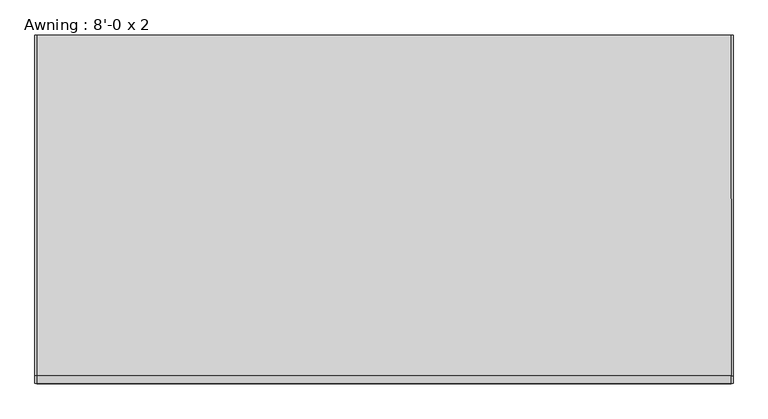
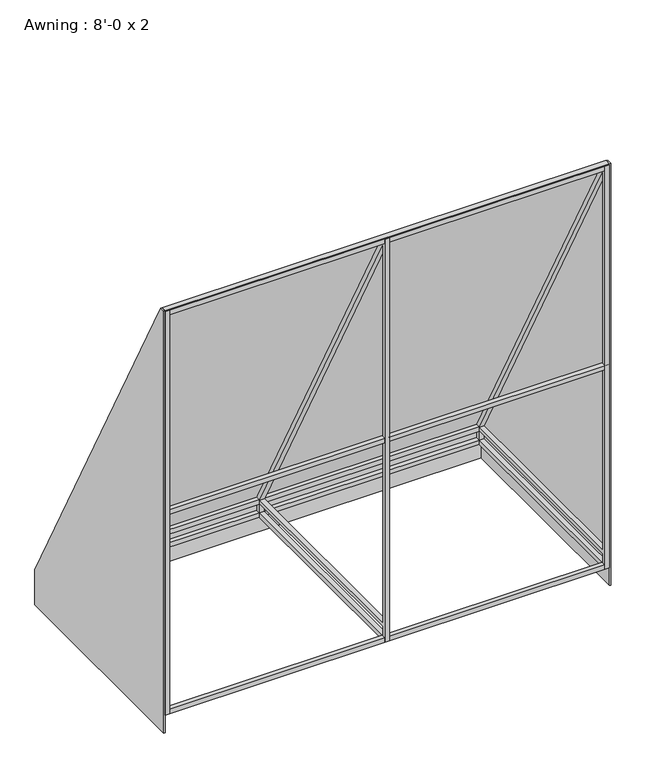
"""IFC4 building model written with IfcOpenShell, lengths in millimetres: proxy geometry, Awning : 8'-0 x 2."""

from ifc_helpers import new_model, si_unit, frame, origin, place, context, project, spatial, polyline, outline, extrude, source, transform, mapped, element, save


def awning_8_0_x_2_a0d9e4c4(model_context):
    return source(origin(), model_context, "Body", "SweptSolid", [
        extrude(outline(polyline([(1339.85, 2032.0), (1339.85, 1930.4), (120.65, 1930.4), (120.65, 4267.2), (146.05, 4267.2), (1339.85, 2032.0)]), holes=[polyline([(1314.45, 2006.6), (146.05, 2006.6), (146.05, 1955.8), (1314.45, 1955.8), (1314.45, 2006.6)]), polyline([(146.05, 2032.0), (1311.0542731, 2032.0), (146.05, 4213.2845964), (146.05, 2032.0)])]), frame((-12.7, 0.0, 0.0), z_axis=(1.0, 0.0, 0.0), x_axis=(0.0, 1.0, 0.0)), (0.0, 0.0, 1.0), 25.4),
        extrude(outline(polyline([(1339.85, 2032.0), (1339.85, 1930.4), (120.65, 1930.4), (120.65, 4267.2), (146.05, 4267.2), (1339.85, 2032.0)]), holes=[polyline([(1314.45, 2006.6), (146.05, 2006.6), (146.05, 1955.8), (1314.45, 1955.8), (1314.45, 2006.6)]), polyline([(146.05, 2032.0), (1311.0542731, 2032.0), (146.05, 4213.2845964), (146.05, 2032.0)])]), frame((1193.8, 0.0, 0.0), z_axis=(1.0, 0.0, 0.0), x_axis=(0.0, 1.0, 0.0)), (0.0, 0.0, 1.0), 25.4),
        extrude(outline(polyline([(1339.85, 2032.0), (1339.85, 1930.4), (120.65, 1930.4), (120.65, 4267.2), (146.05, 4267.2), (1339.85, 2032.0)]), holes=[polyline([(1314.45, 2006.6), (146.05, 2006.6), (146.05, 1955.8), (1314.45, 1955.8), (1314.45, 2006.6)]), polyline([(146.05, 2032.0), (1311.0542731, 2032.0), (146.05, 4213.2845964), (146.05, 2032.0)])]), frame((-1219.2, 0.0, 0.0), z_axis=(1.0, 0.0, 0.0), x_axis=(0.0, 1.0, 0.0)), (0.0, 0.0, 1.0), 25.4),
        extrude(outline(polyline([(1346.2, 2034.5780203), (1346.2, 1828.8), (120.65, 1828.8), (120.65, 4273.55), (148.7327975, 4273.55), (1346.2, 2034.5780203)])), frame((1219.2, 0.0, 0.0), z_axis=(1.0, 0.0, 0.0), x_axis=(0.0, 1.0, 0.0)), (0.0, 0.0, 1.0), 6.35),
        extrude(outline(polyline([(1346.2, 2033.5894892), (1346.2, 1828.8), (120.65, 1828.8), (120.65, 4273.55), (149.8574545, 4273.55), (1346.2, 2033.5894892)])), frame((-1225.55, 0.0, 0.0), z_axis=(1.0, 0.0, 0.0), x_axis=(0.0, 1.0, 0.0)), (0.0, 0.0, 1.0), 6.35),
        extrude(outline(polyline([(1219.2, 1339.85), (1219.2, 1314.45), (-1219.2, 1314.45), (-1219.2, 1339.85), (1219.2, 1339.85)])), frame((0.0, 0.0, 1930.4), z_axis=(0.0, 0.0, 1.0), x_axis=(1.0, 0.0, 0.0)), (0.0, 0.0, 1.0), 25.4),
        extrude(outline(polyline([(1219.2, 1339.85), (1219.2, 1314.45), (-1219.2, 1314.45), (-1219.2, 1339.85), (1219.2, 1339.85)])), frame((0.0, 0.0, 2006.6), z_axis=(0.0, 0.0, 1.0), x_axis=(1.0, 0.0, 0.0)), (0.0, 0.0, 1.0), 25.4),
        extrude(outline(polyline([(1219.2, 146.05), (1219.2, 120.65), (-1219.2, 120.65), (-1219.2, 146.05), (1219.2, 146.05)])), frame((0.0, 0.0, 1930.4), z_axis=(0.0, 0.0, 1.0), x_axis=(1.0, 0.0, 0.0)), (0.0, 0.0, 1.0), 25.4),
        extrude(outline(polyline([(1219.2, 146.05), (1219.2, 120.65), (-1219.2, 120.65), (-1219.2, 146.05), (1219.2, 146.05)])), frame((0.0, 0.0, 3086.1), z_axis=(0.0, 0.0, 1.0), x_axis=(1.0, 0.0, 0.0)), (0.0, 0.0, 1.0), 25.4),
        extrude(outline(polyline([(1219.2, 146.05), (1219.2, 120.65), (-1219.2, 120.65), (-1219.2, 146.05), (1219.2, 146.05)])), frame((0.0, 0.0, 4241.8), z_axis=(0.0, 0.0, 1.0), x_axis=(1.0, 0.0, 0.0)), (0.0, 0.0, 1.0), 25.4),
        extrude(outline(polyline([(1339.85, 2032.0), (146.05, 4267.2), (120.65, 4267.2), (120.65, 4273.55), (149.8574545, 4273.55), (1346.2, 2033.5894892), (1346.2, 1828.8), (1339.85, 1828.8), (1339.85, 2032.0)])), frame((-1219.2, 0.0, 0.0), z_axis=(1.0, 0.0, 0.0), x_axis=(0.0, 1.0, 0.0)), (0.0, 0.0, 1.0), 2438.4),
    ])


if __name__ == "__main__":
    model = new_model("IFC4")
    model_context = context("Model", 3, world=origin())
    ifc_project = project(units=[si_unit("LENGTHUNIT", "METRE", prefix="MILLI")], contexts=[model_context])
    site = spatial("IfcSite", under=ifc_project)
    building = spatial("IfcBuilding", under=site)
    placement = place(None, origin())
    awning_8_0_x_2_shape = awning_8_0_x_2_a0d9e4c4(model_context)
    element("IfcBuildingElementProxy", 1, Name="Awning : 8'-0 x 2", ObjectType="Awning : 8'-0 x 2", at=placement, inside=building, context=model_context, shape_type="MappedRepresentation", body=[
        mapped(awning_8_0_x_2_shape, transform((0.0, 0.0, 0.0), x_axis=(1.0, 0.0, 0.0), y_axis=(0.0, 1.0, 0.0), z_axis=(0.0, 0.0, 1.0))),
    ])
    save(model, "model.ifc")
